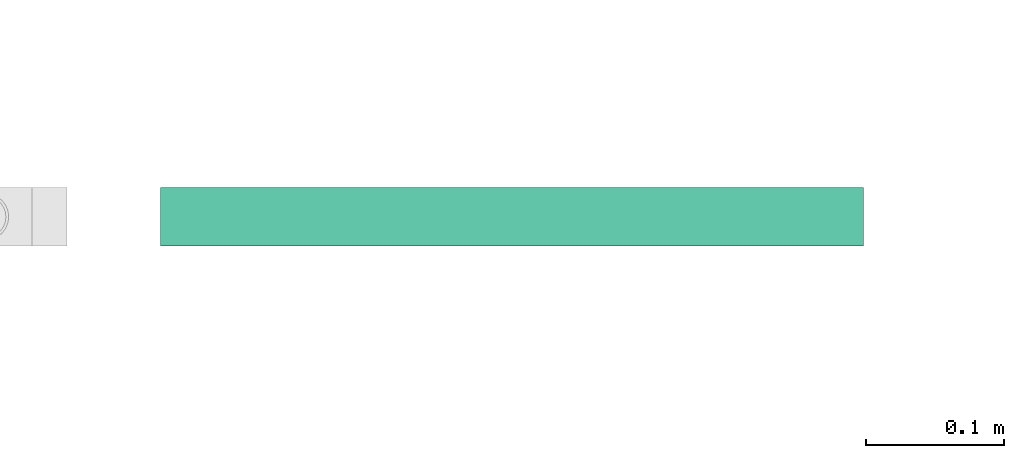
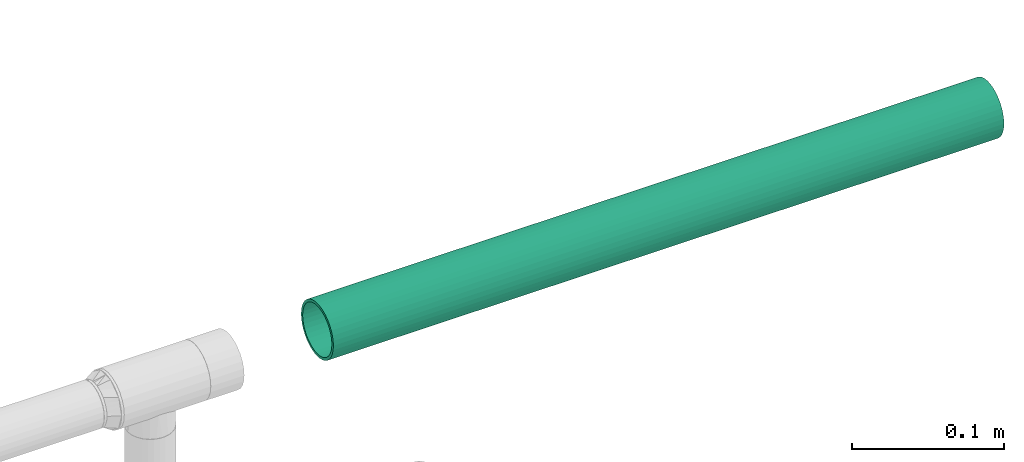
# One storey, part 91 of 94: 1 flow segment.
"""IFC2X3 building model written with IfcOpenShell, lengths in millimetres."""

from ifc_helpers import new_model, entity, si_unit, converted_unit, derived_unit, direction, frame, place, context, subcontext, project, spatial, faceted_brep, type_object, element, save


model = new_model("IFC2X3")

# Units and contexts
model_context = context("Model", 3, precision=0.01, world=frame((0.0, 4.29681676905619e-09, 0.0)), true_north=direction((4.01073788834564e-13, 1.0)))
plan_context = context("Plan", 3, precision=0.01, world=frame((0.0, 4.29681676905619e-09, 0.0)), true_north=direction((4.01073788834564e-13, 1.0)))
body_context = subcontext(model_context, "Body", "Model", "MODEL_VIEW")
ifc_project = project(units=[converted_unit("PLANEANGLEUNIT", "DEGREE", entity("IfcPositiveLengthMeasure", 0.0174532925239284), si_unit("PLANEANGLEUNIT", "RADIAN"), dimensions=[0, 0, 0, 0, 0, 0, 0]), si_unit("AREAUNIT", "SQUARE_METRE"), si_unit("LENGTHUNIT", "METRE", prefix="MILLI"), si_unit("MASSUNIT", "GRAM", prefix="KILO"), si_unit("POWERUNIT", "WATT"), si_unit("PRESSUREUNIT", "PASCAL", prefix="KILO"), si_unit("FORCEUNIT", "NEWTON", prefix="KILO"), si_unit("ELECTRICVOLTAGEUNIT", "VOLT"), si_unit("ELECTRICCURRENTUNIT", "AMPERE"), si_unit("THERMODYNAMICTEMPERATUREUNIT", "DEGREE_CELSIUS"), si_unit("TIMEUNIT", "SECOND"), si_unit("VOLUMEUNIT", "CUBIC_METRE"), derived_unit("LINEARVELOCITYUNIT", [(si_unit("LENGTHUNIT", "METRE"), 1), (si_unit("TIMEUNIT", "SECOND"), -1)]), derived_unit("VOLUMETRICFLOWRATEUNIT", [(si_unit("VOLUMEUNIT", "CUBIC_METRE"), 1), (si_unit("TIMEUNIT", "SECOND"), -1)]), derived_unit("THERMALTRANSMITTANCEUNIT", [(si_unit("POWERUNIT", "WATT"), 1), (si_unit("THERMODYNAMICTEMPERATUREUNIT", "KELVIN"), -1), (si_unit("AREAUNIT", "SQUARE_METRE"), -1)]), derived_unit("SOUNDPRESSUREUNIT", [(si_unit("PRESSUREUNIT", "PASCAL"), 1)])], contexts=[model_context, plan_context])

# Site, building, storey
site_placement = place(None, frame((0.0, -4.29681676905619e-09, 0.0), z_axis=(0.0, 0.0, 1.0), x_axis=(1.0, 0.0, 0.0)))
site = spatial("IfcSite", under=ifc_project, at=site_placement, CompositionType="ELEMENT")
building_placement = place(site_placement, frame((0.0, 4.29681676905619e-09, 0.0), z_axis=(0.0, 0.0, 1.0), x_axis=(1.0, 0.0, 0.0)))
building = spatial("IfcBuilding", under=site, at=building_placement, Name="mc-building", CompositionType="ELEMENT")
storey_placement = place(building_placement, frame((0.0, 0.0, 210900.0), z_axis=(0.0, 0.0, 1.0), x_axis=(1.0, 0.0, 0.0)))
storey = spatial("IfcBuildingStorey", under=building, at=storey_placement, Name="Nivå F", CompositionType="ELEMENT", Elevation=210900.0)

# Flow segment
pipe_segment_type = type_object("IfcPipeSegmentType", Name="Stålrør normaltykke", PredefinedType="RIGIDSEGMENT")
flow_segment_placement = place(storey_placement, frame((730966.2, 436418.06941, 3500.0), z_axis=(0.0, 0.0, 1.0), x_axis=(-1.0, 0.0, 0.0)))
element("IfcFlowSegment", 1, at=flow_segment_placement, inside=storey, type_object=pipe_segment_type, Name="Stålrør normaltykke", context=body_context, shape_type="Brep", body=[
    faceted_brep([(1823.61021353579, 18.9083088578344, -3.33404501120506), (1823.61021353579, 19.2, 0.0), (2332.4, 19.2, 0.0), (2332.4, 18.9083088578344, -3.33404501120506), (1823.61021353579, 18.0420983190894, -6.56678675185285), (2332.4, 18.0420983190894, -6.56678675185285), (1823.61021353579, 16.6276877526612, -9.60000000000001), (2332.4, 16.6276877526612, -9.60000000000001), (1823.61021353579, 14.7080533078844, -12.3415221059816), (2332.4, 14.7080533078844, -12.3415221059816), (1823.61021353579, 12.3415221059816, -14.7080533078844), (2332.4, 12.3415221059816, -14.7080533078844), (1823.61021353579, 9.6, -16.6276877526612), (2332.4, 9.6, -16.6276877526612), (1823.61021353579, 6.56678675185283, -18.0420983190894), (2332.4, 6.56678675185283, -18.0420983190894), (1823.61021353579, 3.33404501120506, -18.9083088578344), (2332.4, 3.33404501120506, -18.9083088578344), (1823.61021353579, -3.52698278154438e-15, -19.2), (2332.4, -3.52698278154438e-15, -19.2), (1823.61021353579, -3.33404501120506, -18.9083088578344), (2332.4, -3.33404501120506, -18.9083088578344), (1823.61021353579, -6.56678675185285, -18.0420983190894), (2332.4, -6.56678675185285, -18.0420983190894), (1823.61021353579, -9.60000000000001, -16.6276877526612), (2332.4, -9.60000000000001, -16.6276877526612), (1823.61021353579, -12.3415221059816, -14.7080533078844), (2332.4, -12.3415221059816, -14.7080533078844), (1823.61021353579, -14.7080533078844, -12.3415221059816), (2332.4, -14.7080533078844, -12.3415221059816), (1823.61021353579, -16.6276877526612, -9.59999999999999), (2332.4, -16.6276877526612, -9.59999999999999), (1823.61021353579, -18.0420983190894, -6.56678675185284), (2332.4, -18.0420983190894, -6.56678675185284), (1823.61021353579, -18.9083088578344, -3.33404501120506), (2332.4, -18.9083088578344, -3.33404501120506), (1823.61021353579, -19.2, 2.35132185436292e-15), (2332.4, -19.2, 2.35132185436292e-15), (1823.61021353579, -18.9083088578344, 3.33404501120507), (2332.4, -18.9083088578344, 3.33404501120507), (1823.61021353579, -18.0420983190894, 6.56678675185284), (2332.4, -18.0420983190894, 6.56678675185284), (1823.61021353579, -16.6276877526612, 9.6), (2332.4, -16.6276877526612, 9.6), (1823.61021353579, -14.7080533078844, 12.3415221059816), (2332.4, -14.7080533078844, 12.3415221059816), (1823.61021353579, -12.3415221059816, 14.7080533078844), (2332.4, -12.3415221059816, 14.7080533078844), (1823.61021353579, -9.6, 16.6276877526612), (2332.4, -9.6, 16.6276877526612), (1823.61021353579, -6.56678675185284, 18.0420983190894), (2332.4, -6.56678675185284, 18.0420983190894), (1823.61021353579, -3.33404501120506, 18.9083088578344), (2332.4, -3.33404501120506, 18.9083088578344), (1823.61021353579, 1.17566092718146e-15, 19.2), (2332.4, 1.17566092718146e-15, 19.2), (1823.61021353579, 3.33404501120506, 18.9083088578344), (2332.4, 3.33404501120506, 18.9083088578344), (1823.61021353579, 6.56678675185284, 18.0420983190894), (2332.4, 6.56678675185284, 18.0420983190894), (1823.61021353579, 9.6, 16.6276877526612), (2332.4, 9.6, 16.6276877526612), (1823.61021353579, 12.3415221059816, 14.7080533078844), (2332.4, 12.3415221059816, 14.7080533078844), (1823.61021353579, 14.7080533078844, 12.3415221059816), (2332.4, 14.7080533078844, 12.3415221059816), (1823.61021353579, 16.6276877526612, 9.6), (2332.4, 16.6276877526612, 9.6), (1823.61021353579, 18.0420983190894, 6.56678675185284), (2332.4, 18.0420983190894, 6.56678675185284), (1823.61021353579, 18.9083088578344, 3.33404501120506), (2332.4, 18.9083088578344, 3.33404501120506), (1823.61021353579, 21.2, 0.0), (1823.61021353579, 20.8779243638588, -3.68134136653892), (2332.4, 20.8779243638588, -3.68134136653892), (2332.4, 21.2, 0.0), (1823.61021353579, 20.8779243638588, 3.68134136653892), (2332.4, 20.8779243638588, 3.68134136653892), (1823.61021353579, 19.9214835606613, 7.25082703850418), (2332.4, 19.9214835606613, 7.25082703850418), (1823.61021353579, 18.3597385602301, 10.6), (2332.4, 18.3597385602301, 10.6), (1823.61021353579, 16.2401421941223, 13.6270973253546), (2332.4, 16.2401421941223, 13.6270973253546), (1823.61021353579, 13.6270973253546, 16.2401421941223), (2332.4, 13.6270973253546, 16.2401421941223), (1823.61021353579, 10.6, 18.3597385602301), (2332.4, 10.6, 18.3597385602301), (1823.61021353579, 7.25082703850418, 19.9214835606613), (2332.4, 7.25082703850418, 19.9214835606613), (1823.61021353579, 3.68134136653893, 20.8779243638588), (2332.4, 3.68134136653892, 20.8779243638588), (1823.61021353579, 1.29812560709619e-15, 21.2), (2332.4, 1.29812560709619e-15, 21.2), (1823.61021353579, -3.68134136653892, 20.8779243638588), (2332.4, -3.68134136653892, 20.8779243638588), (1823.61021353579, -7.25082703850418, 19.9214835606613), (2332.4, -7.25082703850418, 19.9214835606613), (1823.61021353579, -10.6, 18.3597385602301), (2332.4, -10.6, 18.3597385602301), (1823.61021353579, -13.6270973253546, 16.2401421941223), (2332.4, -13.6270973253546, 16.2401421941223), (1823.61021353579, -16.2401421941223, 13.6270973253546), (2332.4, -16.2401421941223, 13.6270973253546), (1823.61021353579, -18.3597385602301, 10.6), (2332.4, -18.3597385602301, 10.6), (1823.61021353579, -19.9214835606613, 7.25082703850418), (2332.4, -19.9214835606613, 7.25082703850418), (1823.61021353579, -20.8779243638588, 3.68134136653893), (2332.4, -20.8779243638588, 3.68134136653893), (1823.61021353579, -21.2, 2.59625121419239e-15), (2332.4, -21.2, 2.59625121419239e-15), (1823.61021353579, -20.8779243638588, -3.68134136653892), (2332.4, -20.8779243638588, -3.68134136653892), (1823.61021353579, -19.9214835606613, -7.25082703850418), (2332.4, -19.9214835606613, -7.25082703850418), (1823.61021353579, -18.3597385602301, -10.6), (2332.4, -18.3597385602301, -10.6), (1823.61021353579, -16.2401421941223, -13.6270973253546), (2332.4, -16.2401421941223, -13.6270973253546), (1823.61021353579, -13.6270973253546, -16.2401421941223), (2332.4, -13.6270973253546, -16.2401421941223), (1823.61021353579, -10.6, -18.3597385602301), (2332.4, -10.6, -18.3597385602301), (1823.61021353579, -7.25082703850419, -19.9214835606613), (2332.4, -7.25082703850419, -19.9214835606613), (1823.61021353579, -3.68134136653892, -20.8779243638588), (2332.4, -3.68134136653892, -20.8779243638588), (1823.61021353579, -3.89437682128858e-15, -21.2), (2332.4, -3.89437682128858e-15, -21.2), (1823.61021353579, 3.68134136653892, -20.8779243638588), (2332.4, 3.68134136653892, -20.8779243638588), (1823.61021353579, 7.25082703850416, -19.9214835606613), (2332.4, 7.25082703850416, -19.9214835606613), (1823.61021353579, 10.6, -18.3597385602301), (2332.4, 10.6, -18.3597385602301), (1823.61021353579, 13.6270973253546, -16.2401421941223), (2332.4, 13.6270973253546, -16.2401421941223), (1823.61021353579, 16.2401421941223, -13.6270973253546), (2332.4, 16.2401421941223, -13.6270973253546), (1823.61021353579, 18.3597385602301, -10.6), (2332.4, 18.3597385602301, -10.6), (1823.61021353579, 19.9214835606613, -7.25082703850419), (2332.4, 19.9214835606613, -7.25082703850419)], [[[0, 1, 2, 3]], [[4, 0, 3, 5]], [[6, 4, 5, 7]], [[8, 6, 7, 9]], [[10, 8, 9, 11]], [[12, 10, 11, 13]], [[14, 12, 13, 15]], [[16, 14, 15, 17]], [[18, 16, 17, 19]], [[20, 18, 19, 21]], [[22, 20, 21, 23]], [[24, 22, 23, 25]], [[26, 24, 25, 27]], [[28, 26, 27, 29]], [[30, 28, 29, 31]], [[32, 30, 31, 33]], [[34, 32, 33, 35]], [[36, 34, 35, 37]], [[38, 36, 37, 39]], [[40, 38, 39, 41]], [[42, 40, 41, 43]], [[44, 42, 43, 45]], [[46, 44, 45, 47]], [[48, 46, 47, 49]], [[50, 48, 49, 51]], [[52, 50, 51, 53]], [[54, 52, 53, 55]], [[56, 54, 55, 57]], [[58, 56, 57, 59]], [[60, 58, 59, 61]], [[62, 60, 61, 63]], [[64, 62, 63, 65]], [[66, 64, 65, 67]], [[68, 66, 67, 69]], [[70, 68, 69, 71]], [[1, 70, 71, 2]], [[72, 73, 74, 75]], [[76, 72, 75, 77]], [[78, 76, 77, 79]], [[80, 78, 79, 81]], [[82, 80, 81, 83]], [[84, 82, 83, 85]], [[86, 84, 85, 87]], [[88, 86, 87, 89]], [[90, 88, 89, 91]], [[92, 90, 91, 93]], [[94, 92, 93, 95]], [[96, 94, 95, 97]], [[98, 96, 97, 99]], [[100, 98, 99, 101]], [[102, 100, 101, 103]], [[104, 102, 103, 105]], [[106, 104, 105, 107]], [[108, 106, 107, 109]], [[110, 108, 109, 111]], [[112, 110, 111, 113]], [[114, 112, 113, 115]], [[116, 114, 115, 117]], [[118, 116, 117, 119]], [[120, 118, 119, 121]], [[122, 120, 121, 123]], [[124, 122, 123, 125]], [[126, 124, 125, 127]], [[128, 126, 127, 129]], [[130, 128, 129, 131]], [[132, 130, 131, 133]], [[134, 132, 133, 135]], [[136, 134, 135, 137]], [[138, 136, 137, 139]], [[140, 138, 139, 141]], [[142, 140, 141, 143]], [[73, 142, 143, 74]], [[75, 74, 143, 141, 139, 137, 135, 133, 131, 129, 127, 125, 123, 121, 119, 117, 115, 113, 111, 109, 107, 105, 103, 101, 99, 97, 95, 93, 91, 89, 87, 85, 83, 81, 79, 77], [2, 71, 69, 67, 65, 63, 61, 59, 57, 55, 53, 51, 49, 47, 45, 43, 41, 39, 37, 35, 33, 31, 29, 27, 25, 23, 21, 19, 17, 15, 13, 11, 9, 7, 5, 3]], [[76, 78, 80, 82, 84, 86, 88, 90, 92, 94, 96, 98, 100, 102, 104, 106, 108, 110, 112, 114, 116, 118, 120, 122, 124, 126, 128, 130, 132, 134, 136, 138, 140, 142, 73, 72], [4, 6, 8, 10, 12, 14, 16, 18, 20, 22, 24, 26, 28, 30, 32, 34, 36, 38, 40, 42, 44, 46, 48, 50, 52, 54, 56, 58, 60, 62, 64, 66, 68, 70, 1, 0]]], orient=[[False], [False], [False], [False], [False], [False], [False], [False], [False], [False], [False], [False], [False], [False], [False], [False], [False], [False], [False], [False], [False], [False], [False], [False], [False], [False], [False], [False], [False], [False], [False], [False], [False], [False], [False], [False], [False], [False], [False], [False], [False], [False], [False], [False], [False], [False], [False], [False], [False], [False], [False], [False], [False], [False], [False], [False], [False], [False], [False], [False], [False], [False], [False], [False], [False], [False], [False], [False], [False], [False], [False], [False], [False, False], [False, False]]),
])

save(model, "model.ifc")
